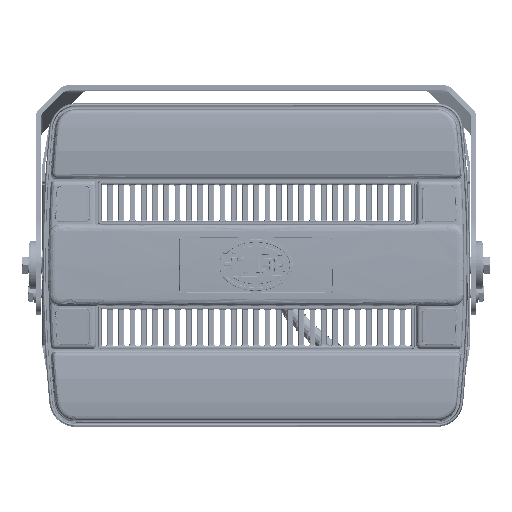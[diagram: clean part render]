
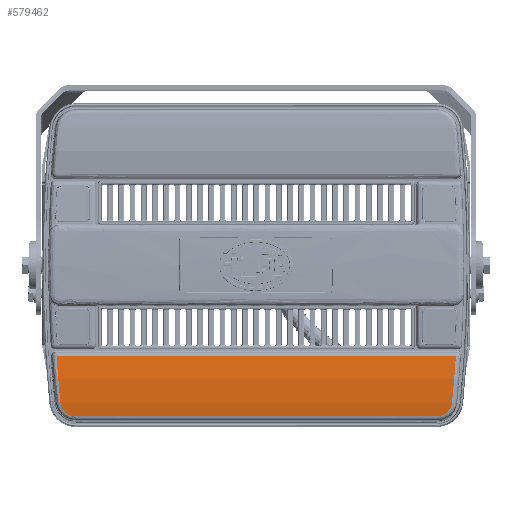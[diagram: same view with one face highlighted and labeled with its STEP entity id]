
A CAD part, top view. The second image highlights one B-rep face of the part: STEP entity #579462.
In plain terms, the highlighted cylindrical face has radius 242.167 mm (diameter 484.333 mm), a partial arc.
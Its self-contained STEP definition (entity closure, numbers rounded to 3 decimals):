
#579409=AXIS2_PLACEMENT_3D('Cylinder Axis2P3D',#579406,#579407,#579408) ;
#396706=CARTESIAN_POINT('Control Point',(222.04,-101.158,7.171)) ;
#396707=CARTESIAN_POINT('Control Point',(133.322,-101.158,7.171)) ;
#396708=CARTESIAN_POINT('Control Point',(44.604,-101.158,7.171)) ;
#396709=CARTESIAN_POINT('Control Point',(-44.114,-101.158,7.171)) ;
#396710=CARTESIAN_POINT('Control Point',(-132.832,-101.158,7.171)) ;
#396711=CARTESIAN_POINT('Control Point',(-221.551,-101.158,7.171)) ;
#396712=CARTESIAN_POINT('Vertex',(222.04,-101.158,7.171)) ;
#396714=CARTESIAN_POINT('Vertex',(-221.551,-101.158,7.171)) ;
#579406=CARTESIAN_POINT('Axis2P3D Location',(-121.255,-134.664,-232.667)) ;
#579412=CARTESIAN_POINT('Control Point',(222.04,-101.158,7.171)) ;
#579413=CARTESIAN_POINT('Control Point',(221.143,-113.872,8.947)) ;
#579414=CARTESIAN_POINT('Control Point',(220.132,-126.703,9.823)) ;
#579415=CARTESIAN_POINT('Control Point',(219.008,-139.555,9.789)) ;
#579416=CARTESIAN_POINT('Control Point',(217.783,-152.33,8.855)) ;
#579417=CARTESIAN_POINT('Vertex',(217.783,-152.33,8.855)) ;
#579421=CARTESIAN_POINT('Control Point',(217.783,-152.33,8.855)) ;
#579422=CARTESIAN_POINT('Control Point',(217.294,-157.427,8.482)) ;
#579423=CARTESIAN_POINT('Control Point',(214.994,-162.335,7.99)) ;
#579424=CARTESIAN_POINT('Control Point',(210.939,-166.22,7.443)) ;
#579425=CARTESIAN_POINT('Control Point',(205.819,-168.17,7.171)) ;
#579426=CARTESIAN_POINT('Control Point',(200.71,-168.17,7.171)) ;
#579427=CARTESIAN_POINT('Vertex',(200.71,-168.17,7.171)) ;
#579430=CARTESIAN_POINT('Line Origine',(-121.255,-168.17,7.171)) ;
#579434=CARTESIAN_POINT('Vertex',(-200.221,-168.17,7.171)) ;
#579438=CARTESIAN_POINT('Control Point',(-200.221,-168.17,7.171)) ;
#579439=CARTESIAN_POINT('Control Point',(-205.329,-168.17,7.171)) ;
#579440=CARTESIAN_POINT('Control Point',(-210.449,-166.22,7.443)) ;
#579441=CARTESIAN_POINT('Control Point',(-214.505,-162.336,7.99)) ;
#579442=CARTESIAN_POINT('Control Point',(-216.804,-157.427,8.482)) ;
#579443=CARTESIAN_POINT('Control Point',(-217.293,-152.33,8.855)) ;
#579444=CARTESIAN_POINT('Vertex',(-217.293,-152.33,8.855)) ;
#579448=CARTESIAN_POINT('Control Point',(-217.293,-152.33,8.855)) ;
#579449=CARTESIAN_POINT('Control Point',(-218.518,-139.555,9.789)) ;
#579450=CARTESIAN_POINT('Control Point',(-219.642,-126.703,9.823)) ;
#579451=CARTESIAN_POINT('Control Point',(-220.653,-113.872,8.947)) ;
#579452=CARTESIAN_POINT('Control Point',(-221.551,-101.158,7.171)) ;
#579407=DIRECTION('Axis2P3D Direction',(-1.,0.,0.)) ;
#579408=DIRECTION('Axis2P3D XDirection',(0.,-1.,0.)) ;
#579431=DIRECTION('Vector Direction',(-1.,0.,0.)) ;
#579432=VECTOR('Line Direction',#579431,1.) ;
#579455=ORIENTED_EDGE('',*,*,#396716,.F.) ;
#579456=ORIENTED_EDGE('',*,*,#579419,.T.) ;
#579457=ORIENTED_EDGE('',*,*,#579429,.T.) ;
#579458=ORIENTED_EDGE('',*,*,#579436,.T.) ;
#579459=ORIENTED_EDGE('',*,*,#579446,.T.) ;
#579460=ORIENTED_EDGE('',*,*,#579453,.T.) ;
#579462=ADVANCED_FACE('Lamp module',(#579461),#579410,.F.) ;
#396705=B_SPLINE_CURVE_WITH_KNOTS('',5,(#396706,#396707,#396708,#396709,#396710,#396711),.UNSPECIFIED.,.F.,.U.,(6,6),(44.615,488.206),.UNSPECIFIED.) ;
#579411=B_SPLINE_CURVE_WITH_KNOTS('',4,(#579412,#579413,#579414,#579415,#579416),.UNSPECIFIED.,.F.,.U.,(5,5),(0.,72.827),.UNSPECIFIED.) ;
#579420=B_SPLINE_CURVE_WITH_KNOTS('',5,(#579421,#579422,#579423,#579424,#579425,#579426),.UNSPECIFIED.,.F.,.U.,(6,6),(0.,36.31),.UNSPECIFIED.) ;
#579437=B_SPLINE_CURVE_WITH_KNOTS('',5,(#579438,#579439,#579440,#579441,#579442,#579443),.UNSPECIFIED.,.F.,.U.,(6,6),(0.,36.316),.UNSPECIFIED.) ;
#579447=B_SPLINE_CURVE_WITH_KNOTS('',4,(#579448,#579449,#579450,#579451,#579452),.UNSPECIFIED.,.F.,.U.,(5,5),(0.,72.82),.UNSPECIFIED.) ;
#579410=CYLINDRICAL_SURFACE('generated cylinder',#579409,242.167) ;
#396716=EDGE_CURVE('',#396713,#396715,#396705,.T.) ;
#579419=EDGE_CURVE('',#396713,#579418,#579411,.T.) ;
#579429=EDGE_CURVE('',#579418,#579428,#579420,.T.) ;
#579436=EDGE_CURVE('',#579428,#579435,#579433,.T.) ;
#579446=EDGE_CURVE('',#579435,#579445,#579437,.T.) ;
#579453=EDGE_CURVE('',#579445,#396715,#579447,.T.) ;
#579454=EDGE_LOOP('',(#579455,#579456,#579457,#579458,#579459,#579460)) ;
#579461=FACE_OUTER_BOUND('',#579454,.T.) ;
#579433=LINE('Line',#579430,#579432) ;
#396713=VERTEX_POINT('',#396712) ;
#396715=VERTEX_POINT('',#396714) ;
#579418=VERTEX_POINT('',#579417) ;
#579428=VERTEX_POINT('',#579427) ;
#579435=VERTEX_POINT('',#579434) ;
#579445=VERTEX_POINT('',#579444) ;
